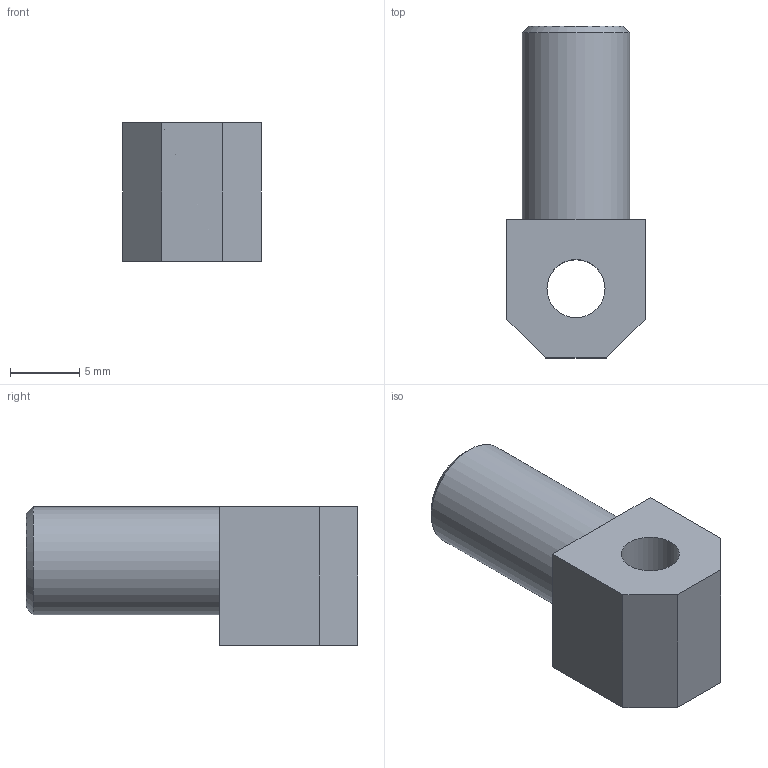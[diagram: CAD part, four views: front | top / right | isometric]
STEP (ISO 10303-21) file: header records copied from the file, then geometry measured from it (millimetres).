
FILE_DESCRIPTION(/* description */ ('Alibre Inc.'),/* implementation_level */ '2;1');
FILE_NAME(/* name */ 'export-6D1E9D9B-519F-4B5E-B492-E25434E76686',/* time_stamp */ '2023-05-25T19:52:51+01:00',/* author */ (''),/* organization */ (''),/* preprocessor_version */ 'ST-DEVELOPER v17',/* originating_system */ 'Alibre',/* authorisation */ '');
FILE_SCHEMA (('AUTOMOTIVE_DESIGN'));
Length unit declared in the file: millimetre
Bounding box: 10 x 24 x 10 mm (x, y, z)
Volume: 1449.1 mm3; surface area: 991.3 mm2
Topology: 1 solids, 1 shells, 12 faces, 28 edges, 18 vertices
Faces by surface type: plane 9, cylinder 2, cone 1
Full cylindrical faces by diameter (mm): 4.2 x1, 7.8 x1
Entity records: 323 total; most frequent: CARTESIAN_POINT 52, ORIENTED_EDGE 48, DIRECTION 43, EDGE_CURVE 24, VECTOR 18, LINE 18, VERTEX_POINT 17, EDGE_LOOP 17
